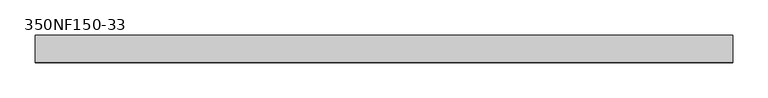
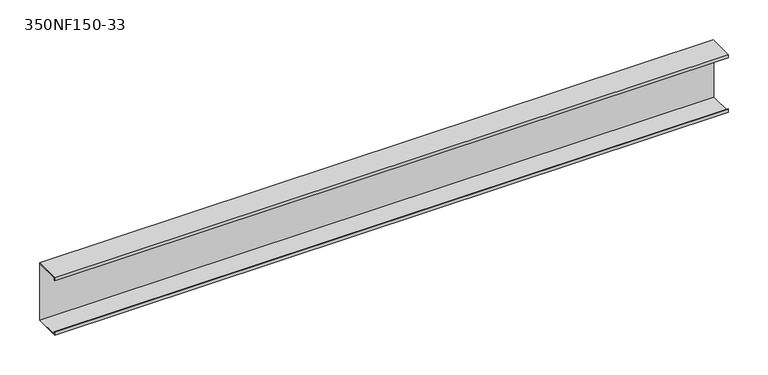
"""IFC4 building model written with IfcOpenShell, lengths in millimetres: beam geometry, BIMSF-SSMA-S : 350NF150-33."""

from ifc_helpers import new_model, si_unit, frame, origin, place, context, project, spatial, polyline, outline, extrude, source, transform, mapped, element, save


def beam_350nf150_33_666b6313(model_context):
    return source(origin(), model_context, "Body", "SweptSolid", [
        extrude(outline(polyline([(19.05, 44.45), (19.05, -44.45), (-19.05, -44.45), (-19.05, -39.6748), (-18.1676842, -39.6748), (-18.1676842, -43.5676842), (18.1676842, -43.5676842), (18.1676842, 43.5676842), (-18.1676842, 43.5676842), (-18.1676842, 39.6748), (-19.05, 39.6748), (-19.05, 44.45), (19.05, 44.45)])), frame((-491.33125, 0.0, 0.0), z_axis=(1.0, 0.0, 0.0), x_axis=(0.0, 1.0, 0.0)), (0.0, 0.0, 1.0), 982.6625),
    ])


if __name__ == "__main__":
    model = new_model("IFC4")
    model_context = context("Model", 3, world=origin())
    ifc_project = project(units=[si_unit("LENGTHUNIT", "METRE", prefix="MILLI")], contexts=[model_context])
    site = spatial("IfcSite", under=ifc_project)
    building = spatial("IfcBuilding", under=site)
    placement = place(None, origin())
    beam_350nf150_33_shape = beam_350nf150_33_666b6313(model_context)
    element("IfcBeam", 1, ObjectType="BIMSF-SSMA-S : 350NF150-33", at=placement, inside=building, context=model_context, shape_type="MappedRepresentation", body=[
        mapped(beam_350nf150_33_shape, transform((0.0, 0.0, 0.0), x_axis=(1.0, 0.0, 0.0), y_axis=(0.0, 1.0, 0.0), z_axis=(0.0, 0.0, 1.0))),
    ])
    save(model, "model.ifc")
